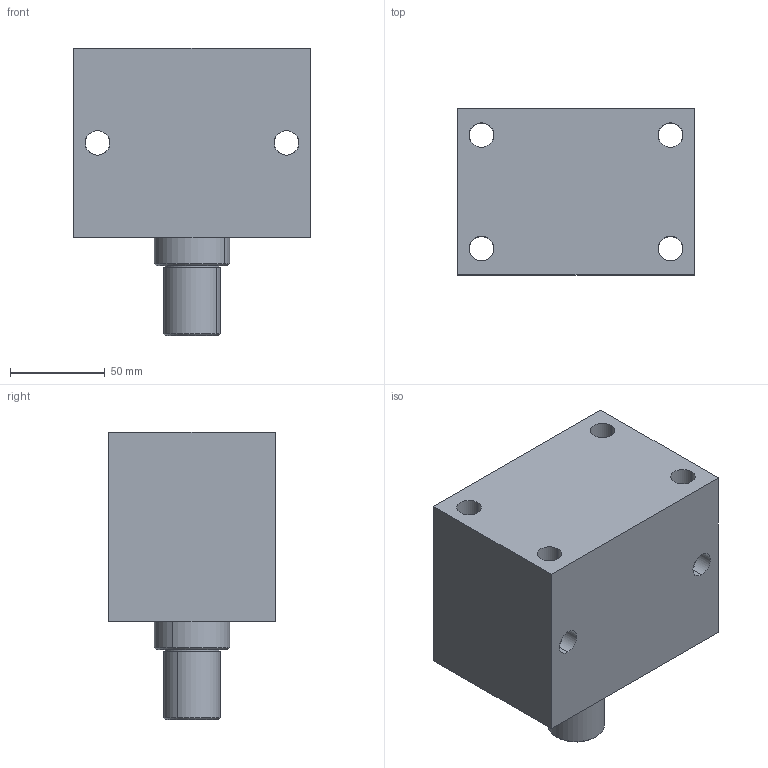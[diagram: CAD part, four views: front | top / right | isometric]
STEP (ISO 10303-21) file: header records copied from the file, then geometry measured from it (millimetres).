
FILE_DESCRIPTION (( 'STEP AP203' ), '1' );
FILE_NAME ('Block cylinder B01C-625M.STEP', '2022-07-09T18:14:49', ( '' ), ( '' ), 'SwSTEP 2.0', 'SolidWorks 2017', '' );
FILE_SCHEMA (( 'CONFIG_CONTROL_DESIGN' ));
Length unit declared in the file: millimetre
Products named in the file (3): Body_ 625M_50ST; Piston _ 625M; Block cylinder B01C-625M
Assembly tree (2 placements, depth 2):
  Block cylinder B01C-625M
    Body_ 625M_50ST
    Piston _ 625M
Bounding box: 125 x 88 x 152 mm (x, y, z)
Volume: 1179629.5 mm3; surface area: 112815.7 mm2
Topology: 2 solids, 2 shells, 352 faces, 958 edges, 626 vertices
Faces by surface type: bspline 154, plane 144, cylinder 46, cone 8
Entity records: 17723 total; most frequent: CARTESIAN_POINT 9627, ORIENTED_EDGE 1908, DIRECTION 1084, EDGE_CURVE 954, VERTEX_POINT 626, VECTOR 550, LINE 550, EDGE_LOOP 392
